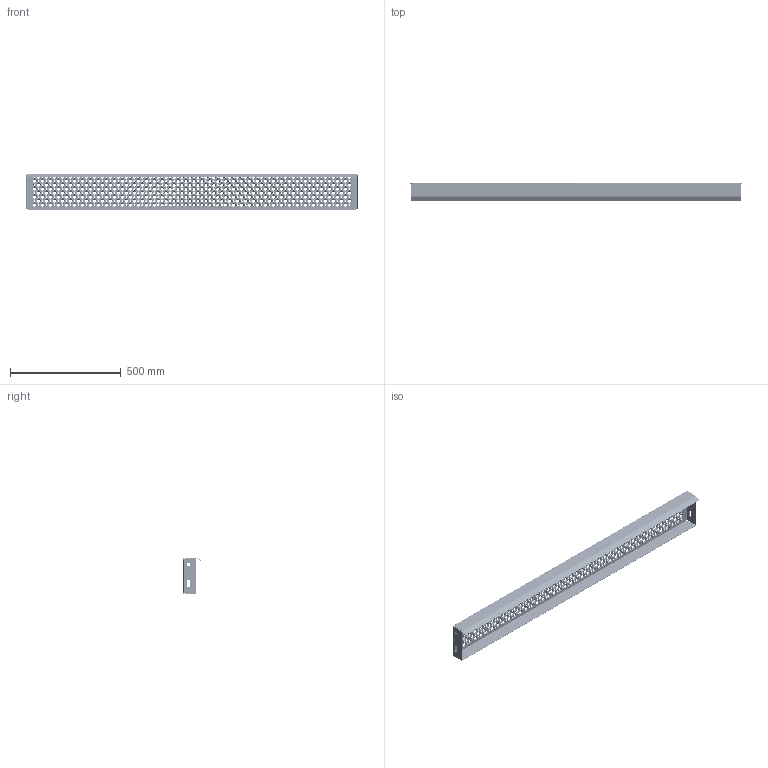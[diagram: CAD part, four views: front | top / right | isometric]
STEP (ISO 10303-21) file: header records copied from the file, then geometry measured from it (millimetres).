
FILE_DESCRIPTION (( 'STEP AP203' ), '1' );
FILE_NAME ('80261615G_Lejdertrin_165x1500x60_mm_.STEP', '2015-01-14T10:48:25', ( '' ), ( '' ), 'SwSTEP 2.0', 'SolidWorks 2013', '' );
FILE_SCHEMA (( 'CONFIG_CONTROL_DESIGN' ));
Length unit declared in the file: millimetre
Products named in the file (1): 80261615G_Lejdertrin_165x1500x60_mm_
Bounding box: 1500 x 84.17 x 165 mm (x, y, z)
Volume: 887813.7 mm3; surface area: 942431.5 mm2
Topology: 1 solids, 1 shells, 3276 faces, 9142 edges, 5868 vertices
Faces by surface type: cone 1920, torus 1280, cylinder 36, plane 32, bspline 8
Full cylindrical faces by diameter (mm): 14 x2
Entity records: 75617 total; most frequent: DIRECTION 14422, CARTESIAN_POINT 11745, ORIENTED_EDGE 8040, EDGE_LOOP 7766, AXIS2_PLACEMENT_3D 7165, FACE_OUTER_BOUND 4558, EDGE_CURVE 4020, VERTEX_POINT 3948
